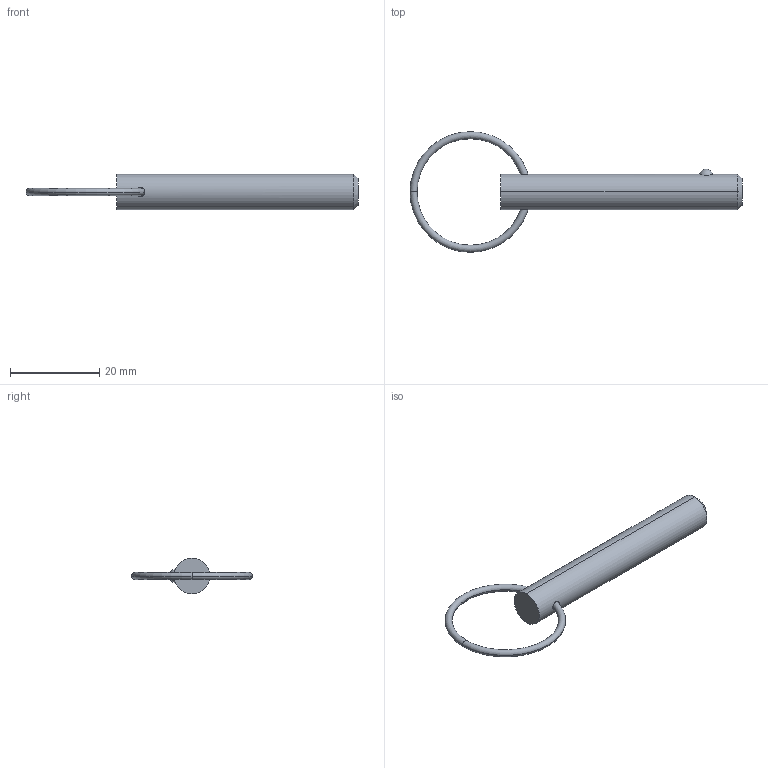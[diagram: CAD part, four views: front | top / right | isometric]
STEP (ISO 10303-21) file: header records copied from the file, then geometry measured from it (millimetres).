
FILE_DESCRIPTION (( 'STEP AP203' ), '1' );
FILE_NAME ('33012.W3115.step', '2024-11-01T14:08:09', ( '' ), ( '' ), 'SwSTEP 2.0', 'SolidWorks 2019', '' );
FILE_SCHEMA (( 'CONFIG_CONTROL_DESIGN' ));
Length unit declared in the file: millimetre
Products named in the file (3): Part1_33012.W3115; 33012.W3115; Part2_33012.W3115
Assembly tree (2 placements, depth 2):
  33012.W3115
    Part1_33012.W3115
    Part2_33012.W3115
Bounding box: 74.23 x 26.99 x 7.94 mm (x, y, z)
Volume: 2800.1 mm3; surface area: 1876 mm2
Topology: 2 solids, 2 shells, 16 faces, 31 edges, 18 vertices
Faces by surface type: torus 8, sphere 2, cone 2, cylinder 2, plane 2
Entity records: 829 total; most frequent: CARTESIAN_POINT 186, DIRECTION 88, ORIENTED_EDGE 62, AXIS2_PLACEMENT_3D 42, EDGE_CURVE 31, PERSON_AND_ORGANIZATION 26, CIRCLE 21, CALENDAR_DATE 19
